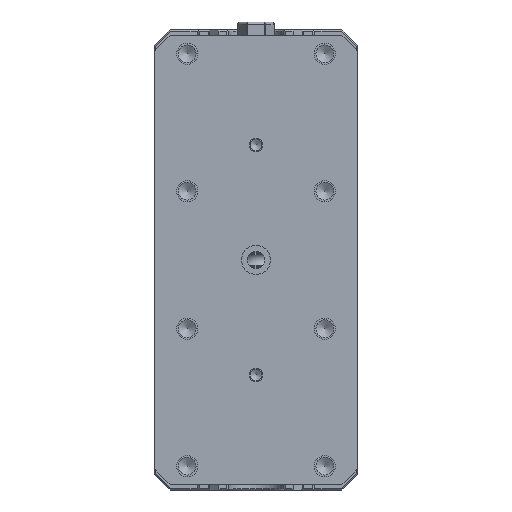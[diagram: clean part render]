
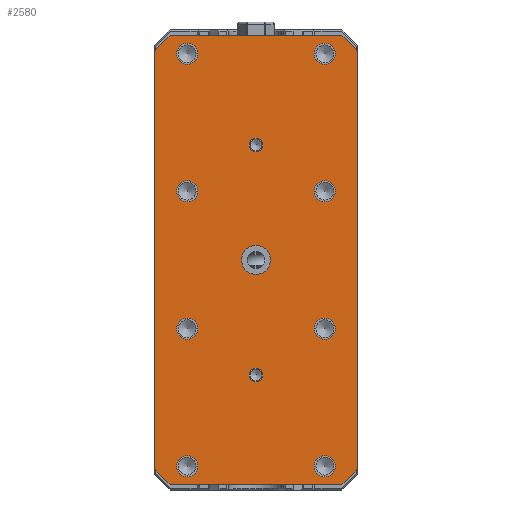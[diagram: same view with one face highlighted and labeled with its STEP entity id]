
A CAD part, front view. The second image highlights one B-rep face of the part: STEP entity #2580.
In plain terms, the highlighted planar face has unit normal (0, -1, 0).
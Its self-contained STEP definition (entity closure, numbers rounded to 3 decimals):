
#1320=PLANE('',#21479);
#1852=FACE_BOUND('',#5140,.T.);
#1853=FACE_BOUND('',#5141,.T.);
#1854=FACE_BOUND('',#5142,.T.);
#1855=FACE_BOUND('',#5143,.T.);
#1856=FACE_BOUND('',#5144,.T.);
#1857=FACE_BOUND('',#5145,.T.);
#1858=FACE_BOUND('',#5146,.T.);
#1859=FACE_BOUND('',#5147,.T.);
#1860=FACE_BOUND('',#5148,.T.);
#1861=FACE_BOUND('',#5149,.T.);
#1862=FACE_BOUND('',#5150,.T.);
#1863=FACE_BOUND('',#5151,.T.);
#2580=ADVANCED_FACE('',(#1852,#1853,#1854,#1855,#1856,#1857,#1858,#1859,
#1860,#1861,#1862,#1863),#1320,.F.);
#5140=EDGE_LOOP('',(#12329));
#5141=EDGE_LOOP('',(#12330));
#5142=EDGE_LOOP('',(#12331));
#5143=EDGE_LOOP('',(#12332,#12333,#12334,#12335,#12336,#12337,#12338,#12339));
#5144=EDGE_LOOP('',(#12340));
#5145=EDGE_LOOP('',(#12341));
#5146=EDGE_LOOP('',(#12342));
#5147=EDGE_LOOP('',(#12343));
#5148=EDGE_LOOP('',(#12344));
#5149=EDGE_LOOP('',(#12345));
#5150=EDGE_LOOP('',(#12346));
#5151=EDGE_LOOP('',(#12347));
#6682=LINE('',#34762,#8524);
#6755=LINE('',#34944,#8597);
#6764=LINE('',#34968,#8606);
#6765=LINE('',#34971,#8607);
#6766=LINE('',#34972,#8608);
#6767=LINE('',#34974,#8609);
#6768=LINE('',#34976,#8610);
#6769=LINE('',#34977,#8611);
#8524=VECTOR('',#24887,1.);
#8597=VECTOR('',#24982,1.);
#8606=VECTOR('',#25001,1.);
#8607=VECTOR('',#25002,1.);
#8608=VECTOR('',#25003,1.);
#8609=VECTOR('',#25004,1.);
#8610=VECTOR('',#25005,1.);
#8611=VECTOR('',#25006,1.);
#12329=ORIENTED_EDGE('',*,*,#18837,.T.);
#12330=ORIENTED_EDGE('',*,*,#18838,.T.);
#12331=ORIENTED_EDGE('',*,*,#18839,.F.);
#12332=ORIENTED_EDGE('',*,*,#18840,.F.);
#12333=ORIENTED_EDGE('',*,*,#18841,.T.);
#12334=ORIENTED_EDGE('',*,*,#18827,.F.);
#12335=ORIENTED_EDGE('',*,*,#18842,.T.);
#12336=ORIENTED_EDGE('',*,*,#18843,.T.);
#12337=ORIENTED_EDGE('',*,*,#18844,.T.);
#12338=ORIENTED_EDGE('',*,*,#18747,.T.);
#12339=ORIENTED_EDGE('',*,*,#18845,.T.);
#12340=ORIENTED_EDGE('',*,*,#18846,.T.);
#12341=ORIENTED_EDGE('',*,*,#18847,.T.);
#12342=ORIENTED_EDGE('',*,*,#18848,.T.);
#12343=ORIENTED_EDGE('',*,*,#18849,.T.);
#12344=ORIENTED_EDGE('',*,*,#18850,.F.);
#12345=ORIENTED_EDGE('',*,*,#18851,.T.);
#12346=ORIENTED_EDGE('',*,*,#18852,.F.);
#12347=ORIENTED_EDGE('',*,*,#18853,.T.);
#16334=VERTEX_POINT('',#34761);
#16335=VERTEX_POINT('',#34763);
#16410=VERTEX_POINT('',#34943);
#16411=VERTEX_POINT('',#34945);
#16418=VERTEX_POINT('',#34963);
#16419=VERTEX_POINT('',#34965);
#16420=VERTEX_POINT('',#34967);
#16421=VERTEX_POINT('',#34969);
#16422=VERTEX_POINT('',#34970);
#16423=VERTEX_POINT('',#34973);
#16424=VERTEX_POINT('',#34975);
#16425=VERTEX_POINT('',#34979);
#16426=VERTEX_POINT('',#34981);
#16427=VERTEX_POINT('',#34983);
#16428=VERTEX_POINT('',#34985);
#16429=VERTEX_POINT('',#34987);
#16430=VERTEX_POINT('',#34989);
#16431=VERTEX_POINT('',#34991);
#16432=VERTEX_POINT('',#34993);
#18747=EDGE_CURVE('',#16335,#16334,#6682,.T.);
#18827=EDGE_CURVE('',#16410,#16411,#6755,.T.);
#18837=EDGE_CURVE('',#16418,#16418,#20463,.T.);
#18838=EDGE_CURVE('',#16419,#16419,#20464,.T.);
#18839=EDGE_CURVE('',#16420,#16420,#20465,.T.);
#18840=EDGE_CURVE('',#16421,#16422,#6764,.T.);
#18841=EDGE_CURVE('',#16421,#16411,#6765,.T.);
#18842=EDGE_CURVE('',#16410,#16423,#6766,.T.);
#18843=EDGE_CURVE('',#16423,#16424,#6767,.T.);
#18844=EDGE_CURVE('',#16424,#16335,#6768,.T.);
#18845=EDGE_CURVE('',#16334,#16422,#6769,.T.);
#18846=EDGE_CURVE('',#16425,#16425,#20466,.T.);
#18847=EDGE_CURVE('',#16426,#16426,#20467,.T.);
#18848=EDGE_CURVE('',#16427,#16427,#20468,.T.);
#18849=EDGE_CURVE('',#16428,#16428,#20469,.T.);
#18850=EDGE_CURVE('',#16429,#16429,#20470,.T.);
#18851=EDGE_CURVE('',#16430,#16430,#20471,.T.);
#18852=EDGE_CURVE('',#16431,#16431,#20472,.T.);
#18853=EDGE_CURVE('',#16432,#16432,#20473,.T.);
#20463=CIRCLE('',#21468,5.5);
#20464=CIRCLE('',#21469,4.);
#20465=CIRCLE('',#21470,4.);
#20466=CIRCLE('',#21471,4.);
#20467=CIRCLE('',#21472,4.);
#20468=CIRCLE('',#21473,4.);
#20469=CIRCLE('',#21474,4.);
#20470=CIRCLE('',#21475,4.);
#20471=CIRCLE('',#21476,4.);
#20472=CIRCLE('',#21477,2.5);
#20473=CIRCLE('',#21478,2.5);
#21468=AXIS2_PLACEMENT_3D('',#34962,#24995,#24996);
#21469=AXIS2_PLACEMENT_3D('',#34964,#24997,#24998);
#21470=AXIS2_PLACEMENT_3D('',#34966,#24999,#25000);
#21471=AXIS2_PLACEMENT_3D('',#34978,#25007,#25008);
#21472=AXIS2_PLACEMENT_3D('',#34980,#25009,#25010);
#21473=AXIS2_PLACEMENT_3D('',#34982,#25011,#25012);
#21474=AXIS2_PLACEMENT_3D('',#34984,#25013,#25014);
#21475=AXIS2_PLACEMENT_3D('',#34986,#25015,#25016);
#21476=AXIS2_PLACEMENT_3D('',#34988,#25017,#25018);
#21477=AXIS2_PLACEMENT_3D('',#34990,#25019,#25020);
#21478=AXIS2_PLACEMENT_3D('',#34992,#25021,#25022);
#21479=AXIS2_PLACEMENT_3D('',#34994,#25023,#25024);
#24887=DIRECTION('',(-1.,0.,0.));
#24982=DIRECTION('',(-1.,0.,0.));
#24995=DIRECTION('',(0.,1.,0.));
#24996=DIRECTION('',(0.,0.,1.));
#24997=DIRECTION('',(0.,1.,0.));
#24998=DIRECTION('',(0.,0.,1.));
#24999=DIRECTION('',(0.,-1.,0.));
#25000=DIRECTION('',(0.,0.,-1.));
#25001=DIRECTION('',(0.,0.,1.));
#25002=DIRECTION('',(0.707,0.,-0.707));
#25003=DIRECTION('',(0.707,0.,0.707));
#25004=DIRECTION('',(0.,0.,1.));
#25005=DIRECTION('',(-0.707,0.,0.707));
#25006=DIRECTION('',(-0.707,0.,-0.707));
#25007=DIRECTION('',(0.,1.,0.));
#25008=DIRECTION('',(0.,0.,1.));
#25009=DIRECTION('',(0.,1.,0.));
#25010=DIRECTION('',(0.,0.,1.));
#25011=DIRECTION('',(0.,1.,0.));
#25012=DIRECTION('',(0.,0.,1.));
#25013=DIRECTION('',(0.,1.,0.));
#25014=DIRECTION('',(0.,0.,1.));
#25015=DIRECTION('',(0.,-1.,0.));
#25016=DIRECTION('',(0.,0.,-1.));
#25017=DIRECTION('',(0.,1.,0.));
#25018=DIRECTION('',(0.,0.,1.));
#25019=DIRECTION('',(0.,-1.,0.));
#25020=DIRECTION('',(0.,0.,-1.));
#25021=DIRECTION('',(0.,1.,0.));
#25022=DIRECTION('',(0.,0.,1.));
#25023=DIRECTION('',(0.,1.,0.));
#25024=DIRECTION('',(0.,0.,1.));
#34761=CARTESIAN_POINT('',(1461.552,691.636,20.));
#34762=CARTESIAN_POINT('',(1532.552,691.636,20.));
#34763=CARTESIAN_POINT('',(1526.552,691.636,20.));
#34943=CARTESIAN_POINT('',(1526.552,691.636,-150.));
#34944=CARTESIAN_POINT('',(1532.552,691.636,-150.));
#34945=CARTESIAN_POINT('',(1461.552,691.636,-150.));
#34962=CARTESIAN_POINT('',(1494.052,691.636,-65.));
#34963=CARTESIAN_POINT('',(1494.052,691.636,-59.5));
#34964=CARTESIAN_POINT('',(1468.052,691.636,13.));
#34965=CARTESIAN_POINT('',(1468.052,691.636,17.));
#34966=CARTESIAN_POINT('',(1468.052,691.636,-143.));
#34967=CARTESIAN_POINT('',(1468.052,691.636,-147.));
#34968=CARTESIAN_POINT('',(1455.552,691.636,-130.));
#34969=CARTESIAN_POINT('',(1455.552,691.636,-144.));
#34970=CARTESIAN_POINT('',(1455.552,691.636,14.));
#34971=CARTESIAN_POINT('',(1461.552,691.636,-150.));
#34972=CARTESIAN_POINT('',(1526.552,691.636,-150.));
#34973=CARTESIAN_POINT('',(1532.552,691.636,-144.));
#34974=CARTESIAN_POINT('',(1532.552,691.636,-130.));
#34975=CARTESIAN_POINT('',(1532.552,691.636,14.));
#34976=CARTESIAN_POINT('',(1532.552,691.636,14.));
#34977=CARTESIAN_POINT('',(1455.552,691.636,14.));
#34978=CARTESIAN_POINT('',(1520.052,691.636,-91.));
#34979=CARTESIAN_POINT('',(1520.052,691.636,-87.));
#34980=CARTESIAN_POINT('',(1520.052,691.636,-39.));
#34981=CARTESIAN_POINT('',(1520.052,691.636,-35.));
#34982=CARTESIAN_POINT('',(1468.052,691.636,-39.));
#34983=CARTESIAN_POINT('',(1468.052,691.636,-35.));
#34984=CARTESIAN_POINT('',(1468.052,691.636,-91.));
#34985=CARTESIAN_POINT('',(1468.052,691.636,-87.));
#34986=CARTESIAN_POINT('',(1520.052,691.636,-143.));
#34987=CARTESIAN_POINT('',(1520.052,691.636,-147.));
#34988=CARTESIAN_POINT('',(1520.052,691.636,13.));
#34989=CARTESIAN_POINT('',(1520.052,691.636,17.));
#34990=CARTESIAN_POINT('',(1494.052,691.636,-108.5));
#34991=CARTESIAN_POINT('',(1494.052,691.636,-111.));
#34992=CARTESIAN_POINT('',(1494.052,691.636,-21.5));
#34993=CARTESIAN_POINT('',(1494.052,691.636,-19.));
#34994=CARTESIAN_POINT('',(1532.552,691.636,-130.));
